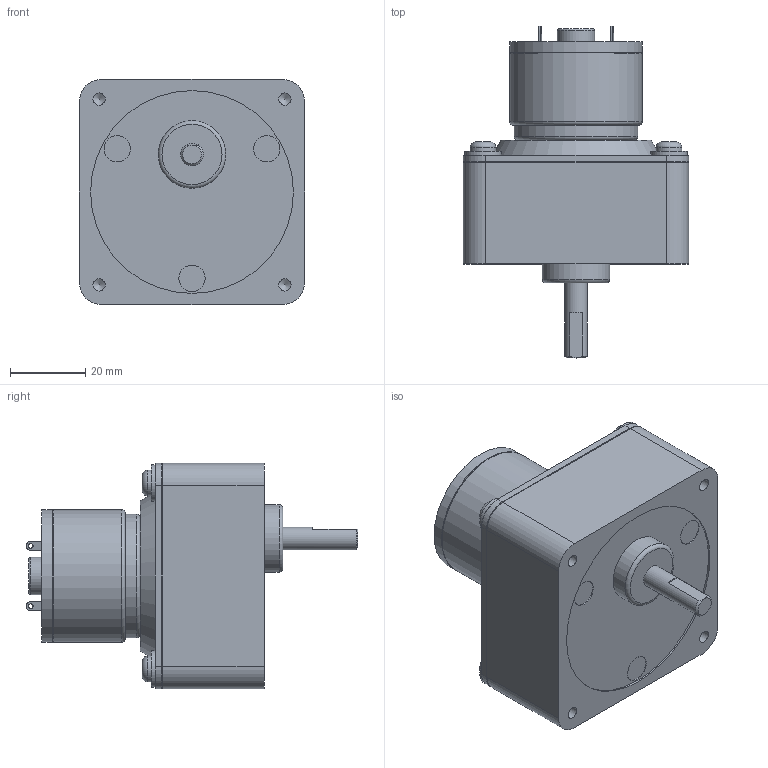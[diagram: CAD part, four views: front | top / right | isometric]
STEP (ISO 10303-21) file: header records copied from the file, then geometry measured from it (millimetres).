
FILE_DESCRIPTION((''),'2;1');
FILE_NAME('C:\Documents and Settings\SSEGAWA\デスクトップ\TP-3526A-CE.STP','2013-07-09T18:39:28',('SSEGAWA'),(''),'Autodesk Inventor 2010','Autodesk Inventor 2010','');
FILE_SCHEMA(('CONFIG_CONTROL_DESIGN'));
Length unit declared in the file: millimetre
Products named in the file (3): tp_3526abcj_ce; ce; tp_3526a,b,c,j
Assembly tree (2 placements, depth 2):
  tp_3526abcj_ce
    ce
    tp_3526a,b,c,j
Bounding box: 60 x 88.4 x 60 mm (x, y, z)
Volume: 135983.1 mm3; surface area: 20647.3 mm2
Topology: 2 solids, 2 shells, 113 faces, 243 edges, 160 vertices
Faces by surface type: plane 50, cylinder 36, bspline 17, torus 8, cone 2
Full cylindrical faces by diameter (mm): 2 x1, 4 x1, 6 x1, 6.8 x4, 7 x3, 9.8 x4, 10 x2, 18 x1, 33 x1, 35 x1, 35.4 x2, 54 x1
Entity records: 3017 total; most frequent: CARTESIAN_POINT 755, DIRECTION 479, ORIENTED_EDGE 352, AXIS2_PLACEMENT_3D 204, EDGE_LOOP 191, EDGE_CURVE 176, VERTEX_POINT 141, FACE_OUTER_BOUND 113
